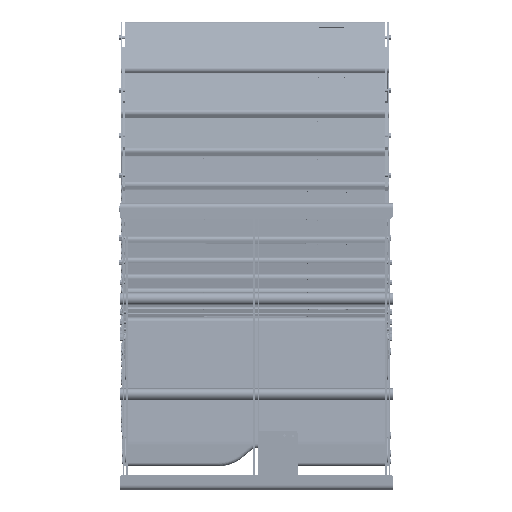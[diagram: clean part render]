
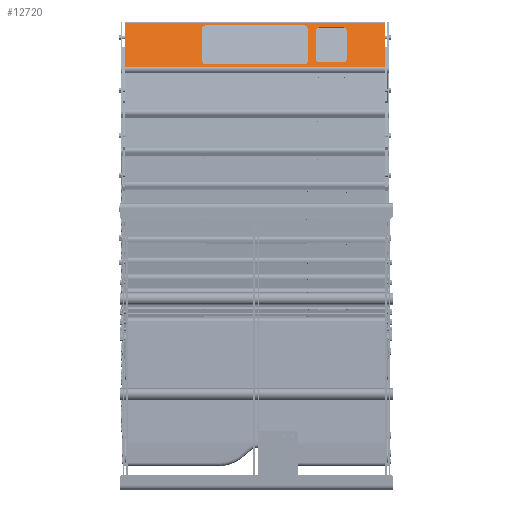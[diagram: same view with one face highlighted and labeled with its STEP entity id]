
A CAD part, top view. The second image highlights one B-rep face of the part: STEP entity #12720.
In plain terms, the highlighted planar face has unit normal (0, 0.707, 0.707) as drawn and (-1, 0, 0) by its records, which use the part's own axes.
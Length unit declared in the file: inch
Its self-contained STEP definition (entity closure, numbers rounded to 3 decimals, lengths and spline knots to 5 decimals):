
#964=CIRCLE('',#13824,0.375);
#965=CIRCLE('',#13825,0.375);
#966=CIRCLE('',#13826,0.375);
#967=CIRCLE('',#13827,0.375);
#968=CIRCLE('',#13828,0.33);
#969=CIRCLE('',#13829,0.33);
#970=CIRCLE('',#13830,0.33);
#971=CIRCLE('',#13831,0.33);
#1504=FACE_BOUND('',#2741,.T.);
#1505=FACE_BOUND('',#2742,.T.);
#1901=FACE_OUTER_BOUND('',#2740,.T.);
#2740=EDGE_LOOP('',(#10328,#10329,#10330,#10331));
#2741=EDGE_LOOP('',(#10332,#10333,#10334,#10335,#10336,#10337,#10338,#10339));
#2742=EDGE_LOOP('',(#10340,#10341,#10342,#10343,#10344,#10345,#10346,#10347));
#3970=LINE('',#20683,#5088);
#3973=LINE('',#20693,#5091);
#3974=LINE('',#20694,#5092);
#3975=LINE('',#20695,#5093);
#3976=LINE('',#20700,#5094);
#3977=LINE('',#20704,#5095);
#3978=LINE('',#20708,#5096);
#3979=LINE('',#20711,#5097);
#3980=LINE('',#20716,#5098);
#3981=LINE('',#20720,#5099);
#3982=LINE('',#20724,#5100);
#3983=LINE('',#20727,#5101);
#5088=VECTOR('',#16579,27.238);
#5091=VECTOR('',#16590,27.238);
#5092=VECTOR('',#16591,6.45343);
#5093=VECTOR('',#16592,6.45343);
#5094=VECTOR('',#16595,10.25);
#5095=VECTOR('',#16598,5.05);
#5096=VECTOR('',#16601,10.25);
#5097=VECTOR('',#16604,5.05);
#5098=VECTOR('',#16607,2.5);
#5099=VECTOR('',#16610,4.5);
#5100=VECTOR('',#16613,2.5);
#5101=VECTOR('',#16616,4.5);
#6180=VERTEX_POINT('',#20681);
#6181=VERTEX_POINT('',#20682);
#6183=VERTEX_POINT('',#20691);
#6184=VERTEX_POINT('',#20692);
#6185=VERTEX_POINT('',#20696);
#6186=VERTEX_POINT('',#20697);
#6187=VERTEX_POINT('',#20699);
#6188=VERTEX_POINT('',#20701);
#6189=VERTEX_POINT('',#20703);
#6190=VERTEX_POINT('',#20705);
#6191=VERTEX_POINT('',#20707);
#6192=VERTEX_POINT('',#20709);
#6193=VERTEX_POINT('',#20712);
#6194=VERTEX_POINT('',#20713);
#6195=VERTEX_POINT('',#20715);
#6196=VERTEX_POINT('',#20717);
#6197=VERTEX_POINT('',#20719);
#6198=VERTEX_POINT('',#20721);
#6199=VERTEX_POINT('',#20723);
#6200=VERTEX_POINT('',#20725);
#7659=EDGE_CURVE('',#6180,#6181,#3970,.T.);
#7664=EDGE_CURVE('',#6183,#6184,#3973,.T.);
#7665=EDGE_CURVE('',#6183,#6180,#3974,.T.);
#7666=EDGE_CURVE('',#6184,#6181,#3975,.T.);
#7667=EDGE_CURVE('',#6185,#6186,#964,.T.);
#7668=EDGE_CURVE('',#6187,#6185,#3976,.T.);
#7669=EDGE_CURVE('',#6188,#6187,#965,.T.);
#7670=EDGE_CURVE('',#6189,#6188,#3977,.T.);
#7671=EDGE_CURVE('',#6190,#6189,#966,.T.);
#7672=EDGE_CURVE('',#6191,#6190,#3978,.T.);
#7673=EDGE_CURVE('',#6192,#6191,#967,.T.);
#7674=EDGE_CURVE('',#6186,#6192,#3979,.T.);
#7675=EDGE_CURVE('',#6193,#6194,#968,.T.);
#7676=EDGE_CURVE('',#6195,#6193,#3980,.T.);
#7677=EDGE_CURVE('',#6196,#6195,#969,.T.);
#7678=EDGE_CURVE('',#6197,#6196,#3981,.T.);
#7679=EDGE_CURVE('',#6198,#6197,#970,.T.);
#7680=EDGE_CURVE('',#6199,#6198,#3982,.T.);
#7681=EDGE_CURVE('',#6200,#6199,#971,.T.);
#7682=EDGE_CURVE('',#6194,#6200,#3983,.T.);
#10328=ORIENTED_EDGE('',*,*,#7664,.F.);
#10329=ORIENTED_EDGE('',*,*,#7665,.T.);
#10330=ORIENTED_EDGE('',*,*,#7659,.T.);
#10331=ORIENTED_EDGE('',*,*,#7666,.F.);
#10332=ORIENTED_EDGE('',*,*,#7667,.F.);
#10333=ORIENTED_EDGE('',*,*,#7668,.F.);
#10334=ORIENTED_EDGE('',*,*,#7669,.F.);
#10335=ORIENTED_EDGE('',*,*,#7670,.F.);
#10336=ORIENTED_EDGE('',*,*,#7671,.F.);
#10337=ORIENTED_EDGE('',*,*,#7672,.F.);
#10338=ORIENTED_EDGE('',*,*,#7673,.F.);
#10339=ORIENTED_EDGE('',*,*,#7674,.F.);
#10340=ORIENTED_EDGE('',*,*,#7675,.F.);
#10341=ORIENTED_EDGE('',*,*,#7676,.F.);
#10342=ORIENTED_EDGE('',*,*,#7677,.F.);
#10343=ORIENTED_EDGE('',*,*,#7678,.F.);
#10344=ORIENTED_EDGE('',*,*,#7679,.F.);
#10345=ORIENTED_EDGE('',*,*,#7680,.F.);
#10346=ORIENTED_EDGE('',*,*,#7681,.F.);
#10347=ORIENTED_EDGE('',*,*,#7682,.F.);
#12255=PLANE('',#13823);
#12720=ADVANCED_FACE('',(#1901,#1504,#1505),#12255,.T.);
#13823=AXIS2_PLACEMENT_3D('',#20690,#16588,#16589);
#13824=AXIS2_PLACEMENT_3D('',#20698,#16593,#16594);
#13825=AXIS2_PLACEMENT_3D('',#20702,#16596,#16597);
#13826=AXIS2_PLACEMENT_3D('',#20706,#16599,#16600);
#13827=AXIS2_PLACEMENT_3D('',#20710,#16602,#16603);
#13828=AXIS2_PLACEMENT_3D('',#20714,#16605,#16606);
#13829=AXIS2_PLACEMENT_3D('',#20718,#16608,#16609);
#13830=AXIS2_PLACEMENT_3D('',#20722,#16611,#16612);
#13831=AXIS2_PLACEMENT_3D('',#20726,#16614,#16615);
#16579=DIRECTION('',(0.,0.,1.));
#16588=DIRECTION('center_axis',(-1.,0.,0.));
#16589=DIRECTION('ref_axis',(0.,0.,1.));
#16590=DIRECTION('',(0.,0.,1.));
#16591=DIRECTION('',(0.,-1.,0.));
#16592=DIRECTION('',(0.,-1.,0.));
#16593=DIRECTION('center_axis',(-1.,0.,0.));
#16594=DIRECTION('ref_axis',(0.,-1.,0.));
#16595=DIRECTION('',(0.,0.,-1.));
#16596=DIRECTION('center_axis',(-1.,0.,0.));
#16597=DIRECTION('ref_axis',(0.,-1.,0.));
#16598=DIRECTION('',(0.,1.,0.));
#16599=DIRECTION('center_axis',(-1.,0.,0.));
#16600=DIRECTION('ref_axis',(0.,-1.,0.));
#16601=DIRECTION('',(0.,0.,1.));
#16602=DIRECTION('center_axis',(-1.,0.,0.));
#16603=DIRECTION('ref_axis',(0.,-1.,0.));
#16604=DIRECTION('',(0.,-1.,0.));
#16605=DIRECTION('center_axis',(-1.,0.,0.));
#16606=DIRECTION('ref_axis',(0.,-1.,0.));
#16607=DIRECTION('',(0.,0.,-1.));
#16608=DIRECTION('center_axis',(-1.,0.,0.));
#16609=DIRECTION('ref_axis',(0.,-1.,0.));
#16610=DIRECTION('',(0.,1.,0.));
#16611=DIRECTION('center_axis',(-1.,0.,0.));
#16612=DIRECTION('ref_axis',(0.,-1.,0.));
#16613=DIRECTION('',(0.,0.,1.));
#16614=DIRECTION('center_axis',(-1.,0.,0.));
#16615=DIRECTION('ref_axis',(0.,-1.,0.));
#16616=DIRECTION('',(0.,-1.,0.));
#20681=CARTESIAN_POINT('',(-13.0906,-3.22672,-27.607));
#20682=CARTESIAN_POINT('',(-13.0906,-3.22672,-0.369));
#20683=CARTESIAN_POINT('',(-13.0906,-3.22672,-27.607));
#20690=CARTESIAN_POINT('Origin',(-13.0906,-3.22672,-27.976));
#20691=CARTESIAN_POINT('',(-13.0906,3.22672,-27.607));
#20692=CARTESIAN_POINT('',(-13.0906,3.22672,-0.369));
#20693=CARTESIAN_POINT('',(-13.0906,3.22672,-27.607));
#20694=CARTESIAN_POINT('',(-13.0906,3.22672,-27.607));
#20695=CARTESIAN_POINT('',(-13.0906,3.22672,-0.369));
#20696=CARTESIAN_POINT('',(-13.0906,2.9,-19.113));
#20697=CARTESIAN_POINT('',(-13.0906,2.525,-19.488));
#20698=CARTESIAN_POINT('Origin',(-13.0906,2.525,-19.113));
#20699=CARTESIAN_POINT('',(-13.0906,2.9,-8.863));
#20700=CARTESIAN_POINT('',(-13.0906,2.9,-8.863));
#20701=CARTESIAN_POINT('',(-13.0906,2.525,-8.488));
#20702=CARTESIAN_POINT('Origin',(-13.0906,2.525,-8.863));
#20703=CARTESIAN_POINT('',(-13.0906,-2.525,-8.488));
#20704=CARTESIAN_POINT('',(-13.0906,-2.525,-8.488));
#20705=CARTESIAN_POINT('',(-13.0906,-2.9,-8.863));
#20706=CARTESIAN_POINT('Origin',(-13.0906,-2.525,-8.863));
#20707=CARTESIAN_POINT('',(-13.0906,-2.9,-19.113));
#20708=CARTESIAN_POINT('',(-13.0906,-2.9,-19.113));
#20709=CARTESIAN_POINT('',(-13.0906,-2.525,-19.488));
#20710=CARTESIAN_POINT('Origin',(-13.0906,-2.525,-19.113));
#20711=CARTESIAN_POINT('',(-13.0906,2.525,-19.488));
#20712=CARTESIAN_POINT('',(-13.0906,2.58,-23.238));
#20713=CARTESIAN_POINT('',(-13.0906,2.25,-23.568));
#20714=CARTESIAN_POINT('Origin',(-13.0906,2.25,-23.238));
#20715=CARTESIAN_POINT('',(-13.0906,2.58,-20.738));
#20716=CARTESIAN_POINT('',(-13.0906,2.58,-20.738));
#20717=CARTESIAN_POINT('',(-13.0906,2.25,-20.408));
#20718=CARTESIAN_POINT('Origin',(-13.0906,2.25,-20.738));
#20719=CARTESIAN_POINT('',(-13.0906,-2.25,-20.408));
#20720=CARTESIAN_POINT('',(-13.0906,-2.25,-20.408));
#20721=CARTESIAN_POINT('',(-13.0906,-2.58,-20.738));
#20722=CARTESIAN_POINT('Origin',(-13.0906,-2.25,-20.738));
#20723=CARTESIAN_POINT('',(-13.0906,-2.58,-23.238));
#20724=CARTESIAN_POINT('',(-13.0906,-2.58,-23.238));
#20725=CARTESIAN_POINT('',(-13.0906,-2.25,-23.568));
#20726=CARTESIAN_POINT('Origin',(-13.0906,-2.25,-23.238));
#20727=CARTESIAN_POINT('',(-13.0906,2.25,-23.568));
